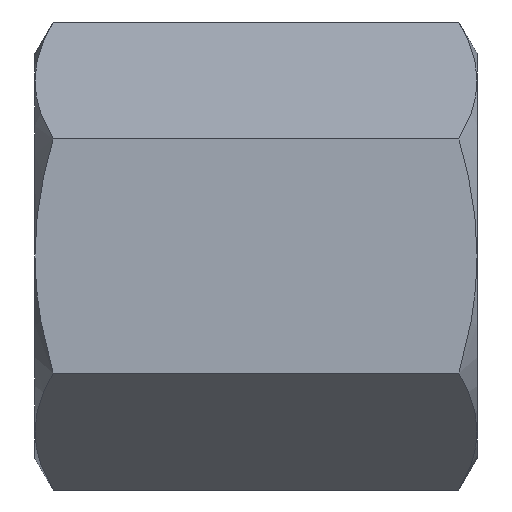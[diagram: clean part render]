
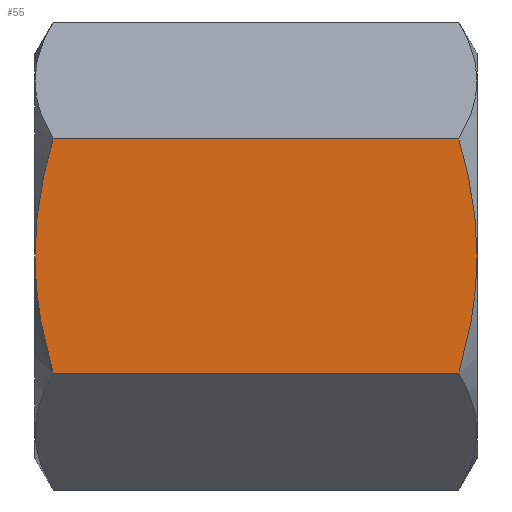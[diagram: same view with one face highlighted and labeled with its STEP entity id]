
A CAD part, left-side view. The second image highlights one B-rep face of the part: STEP entity #55.
In plain terms, the highlighted planar face has unit normal (-1, 0, 0).
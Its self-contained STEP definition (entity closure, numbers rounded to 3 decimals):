
#24 = CARTESIAN_POINT ( 'NONE',  ( -11., 11.304, -5.31 ) ) ;
#38 = DIRECTION ( 'NONE',  ( 0., 0., -1. ) ) ;
#42 = ORIENTED_EDGE ( 'NONE', *, *, #473, .T. ) ;
#55 = ADVANCED_FACE ( 'NONE', ( #305 ), #469, .F. ) ;
#78 = EDGE_CURVE ( 'NONE', #875, #119, #622, .T. ) ;
#84 = EDGE_CURVE ( 'NONE', #984, #875, #133, .T. ) ;
#92 = CARTESIAN_POINT ( 'NONE',  ( -11., 11.886, 2.16 ) ) ;
#119 = VERTEX_POINT ( 'NONE', #594 ) ;
#122 = ORIENTED_EDGE ( 'NONE', *, *, #994, .F. ) ;
#129 = CARTESIAN_POINT ( 'NONE',  ( -11., 11.167, -5.834 ) ) ;
#131 = CARTESIAN_POINT ( 'NONE',  ( -11., -11.018, 6.351 ) ) ;
#132 = VERTEX_POINT ( 'NONE', #576 ) ;
#133 = B_SPLINE_CURVE_WITH_KNOTS ( 'NONE', 3,
 ( #727, #301, #193, #92, #1009, #898, #802, #699 ),
 .UNSPECIFIED., .F., .F.,
 ( 4, 2, 2, 4 ),
 ( 0.018, 0.02, 0.022, 0.025 ),
 .UNSPECIFIED. ) ;
#147 = DIRECTION ( 'NONE',  ( 1., 0., 0. ) ) ;
#178 = VECTOR ( 'NONE', #506, 1000. ) ;
#193 = CARTESIAN_POINT ( 'NONE',  ( -11., 11.977, 1.08 ) ) ;
#203 = VECTOR ( 'NONE', #413, 1000. ) ;
#225 = ORIENTED_EDGE ( 'NONE', *, *, #78, .F. ) ;
#234 = CARTESIAN_POINT ( 'NONE',  ( -11., 11.018, -6.351 ) ) ;
#236 = CARTESIAN_POINT ( 'NONE',  ( -11., 11.018, -6.351 ) ) ;
#239 = CARTESIAN_POINT ( 'NONE',  ( -11., -11.314, 5.323 ) ) ;
#258 = CARTESIAN_POINT ( 'NONE',  ( -11., 12., -6.351 ) ) ;
#282 = EDGE_LOOP ( 'NONE', ( #42, #870, #662, #225, #343, #122 ) ) ;
#285 = CARTESIAN_POINT ( 'NONE',  ( -11., -12., 0. ) ) ;
#286 = CARTESIAN_POINT ( 'NONE',  ( -11., -12., 0. ) ) ;
#301 = CARTESIAN_POINT ( 'NONE',  ( -11., 12., 0.538 ) ) ;
#305 = FACE_OUTER_BOUND ( 'NONE', #282, .T. ) ;
#339 = CARTESIAN_POINT ( 'NONE',  ( -11., 12., 0. ) ) ;
#342 = CARTESIAN_POINT ( 'NONE',  ( -11., -11.561, 4.283 ) ) ;
#343 = ORIENTED_EDGE ( 'NONE', *, *, #84, .F. ) ;
#365 = B_SPLINE_CURVE_WITH_KNOTS ( 'NONE', 3,
 ( #236, #129, #24, #941, #832, #739, #638, #528 ),
 .UNSPECIFIED., .F., .F.,
 ( 4, 2, 2, 4 ),
 ( 0.012, 0.014, 0.015, 0.018 ),
 .UNSPECIFIED. ) ;
#394 = CARTESIAN_POINT ( 'NONE',  ( -11., -12., -1.075 ) ) ;
#413 = DIRECTION ( 'NONE',  ( 0., -1., 0. ) ) ;
#449 = CARTESIAN_POINT ( 'NONE',  ( -11., -11.819, 2.694 ) ) ;
#454 = VERTEX_POINT ( 'NONE', #234 ) ;
#469 = PLANE ( 'NONE',  #850 ) ;
#473 = EDGE_CURVE ( 'NONE', #454, #132, #716, .T. ) ;
#503 = CARTESIAN_POINT ( 'NONE',  ( -11., -11.907, -2.142 ) ) ;
#506 = DIRECTION ( 'NONE',  ( 0., -1., 0. ) ) ;
#516 = CARTESIAN_POINT ( 'NONE',  ( -11., 12., 6.351 ) ) ;
#528 = CARTESIAN_POINT ( 'NONE',  ( -11., 12., 0. ) ) ;
#556 = CARTESIAN_POINT ( 'NONE',  ( -11., -11.886, 2.16 ) ) ;
#576 = CARTESIAN_POINT ( 'NONE',  ( -11., -11.018, -6.351 ) ) ;
#594 = CARTESIAN_POINT ( 'NONE',  ( -11., -11.018, 6.351 ) ) ;
#603 = CARTESIAN_POINT ( 'NONE',  ( -11., -11.651, -3.73 ) ) ;
#609 = CARTESIAN_POINT ( 'NONE',  ( -11., 12., -6.351 ) ) ;
#622 = LINE ( 'NONE', #516, #203 ) ;
#638 = CARTESIAN_POINT ( 'NONE',  ( -11., 12., -1.075 ) ) ;
#659 = CARTESIAN_POINT ( 'NONE',  ( -11., -11.977, 1.08 ) ) ;
#662 = ORIENTED_EDGE ( 'NONE', *, *, #777, .T. ) ;
#699 = CARTESIAN_POINT ( 'NONE',  ( -11., 11.018, 6.351 ) ) ;
#711 = CARTESIAN_POINT ( 'NONE',  ( -11., -11.547, -4.258 ) ) ;
#716 = LINE ( 'NONE', #609, #178 ) ;
#727 = CARTESIAN_POINT ( 'NONE',  ( -11., 12., 0. ) ) ;
#735 = VERTEX_POINT ( 'NONE', #286 ) ;
#739 = CARTESIAN_POINT ( 'NONE',  ( -11., 11.907, -2.142 ) ) ;
#759 = CARTESIAN_POINT ( 'NONE',  ( -11., -12., 0.538 ) ) ;
#768 = B_SPLINE_CURVE_WITH_KNOTS ( 'NONE', 3,
 ( #860, #759, #659, #556, #449, #342, #239, #131 ),
 .UNSPECIFIED., .F., .F.,
 ( 4, 2, 2, 4 ),
 ( 0.018, 0.02, 0.022, 0.025 ),
 .UNSPECIFIED. ) ;
#777 = EDGE_CURVE ( 'NONE', #735, #119, #768, .T. ) ;
#802 = CARTESIAN_POINT ( 'NONE',  ( -11., 11.314, 5.323 ) ) ;
#810 = CARTESIAN_POINT ( 'NONE',  ( -11., -11.304, -5.31 ) ) ;
#832 = CARTESIAN_POINT ( 'NONE',  ( -11., 11.651, -3.73 ) ) ;
#850 = AXIS2_PLACEMENT_3D ( 'NONE', #258, #147, #38 ) ;
#860 = CARTESIAN_POINT ( 'NONE',  ( -11., -12., 0. ) ) ;
#870 = ORIENTED_EDGE ( 'NONE', *, *, #938, .T. ) ;
#875 = VERTEX_POINT ( 'NONE', #883 ) ;
#883 = CARTESIAN_POINT ( 'NONE',  ( -11., 11.018, 6.351 ) ) ;
#898 = CARTESIAN_POINT ( 'NONE',  ( -11., 11.561, 4.283 ) ) ;
#905 = CARTESIAN_POINT ( 'NONE',  ( -11., -11.167, -5.834 ) ) ;
#938 = EDGE_CURVE ( 'NONE', #132, #735, #1017, .T. ) ;
#941 = CARTESIAN_POINT ( 'NONE',  ( -11., 11.547, -4.258 ) ) ;
#984 = VERTEX_POINT ( 'NONE', #339 ) ;
#994 = EDGE_CURVE ( 'NONE', #454, #984, #365, .T. ) ;
#1009 = CARTESIAN_POINT ( 'NONE',  ( -11., 11.819, 2.694 ) ) ;
#1017 = B_SPLINE_CURVE_WITH_KNOTS ( 'NONE', 3,
 ( #1022, #905, #810, #711, #603, #503, #394, #285 ),
 .UNSPECIFIED., .F., .F.,
 ( 4, 2, 2, 4 ),
 ( 0.012, 0.014, 0.015, 0.018 ),
 .UNSPECIFIED. ) ;
#1022 = CARTESIAN_POINT ( 'NONE',  ( -11., -11.018, -6.351 ) ) ;
